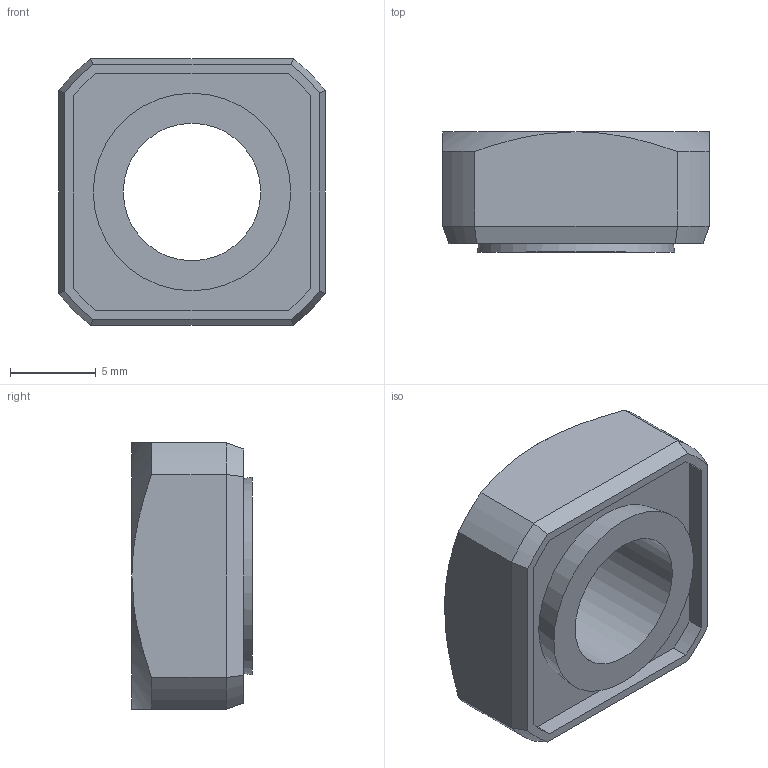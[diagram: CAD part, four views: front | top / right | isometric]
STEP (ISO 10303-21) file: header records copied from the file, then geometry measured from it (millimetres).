
FILE_DESCRIPTION(/* description */ (''),/* implementation_level */ '2;1');
FILE_NAME(/* name */ 'D:\Sukhmani\Fastit\KP Nut\KP 8-S.stp',/* time_stamp */ '2024-03-14T12:24:33+06:00',/* author */ ('edc.sukhmani'),/* organization */ (''),/* preprocessor_version */ 'ST-DEVELOPER v18.1',/* originating_system */ 'Autodesk Inventor 2022',/* authorisation */ '');
FILE_SCHEMA (('AUTOMOTIVE_DESIGN { 1 0 10303 214 3 1 1 }'));
Length unit declared in the file: millimetre
Products named in the file (1): KP 8-S
Bounding box: 15.52 x 7 x 15.52 mm (x, y, z)
Volume: 1090.5 mm3; surface area: 983.7 mm2
Topology: 1 solids, 1 shells, 36 faces, 84 edges, 52 vertices
Faces by surface type: plane 16, cone 10, cylinder 10
Full cylindrical faces by diameter (mm): 8 x1, 9.5 x1
Entity records: 1055 total; most frequent: CARTESIAN_POINT 205, DIRECTION 174, ORIENTED_EDGE 168, EDGE_CURVE 84, AXIS2_PLACEMENT_3D 69, VERTEX_POINT 52, EDGE_LOOP 40, FACE_OUTER_BOUND 36
